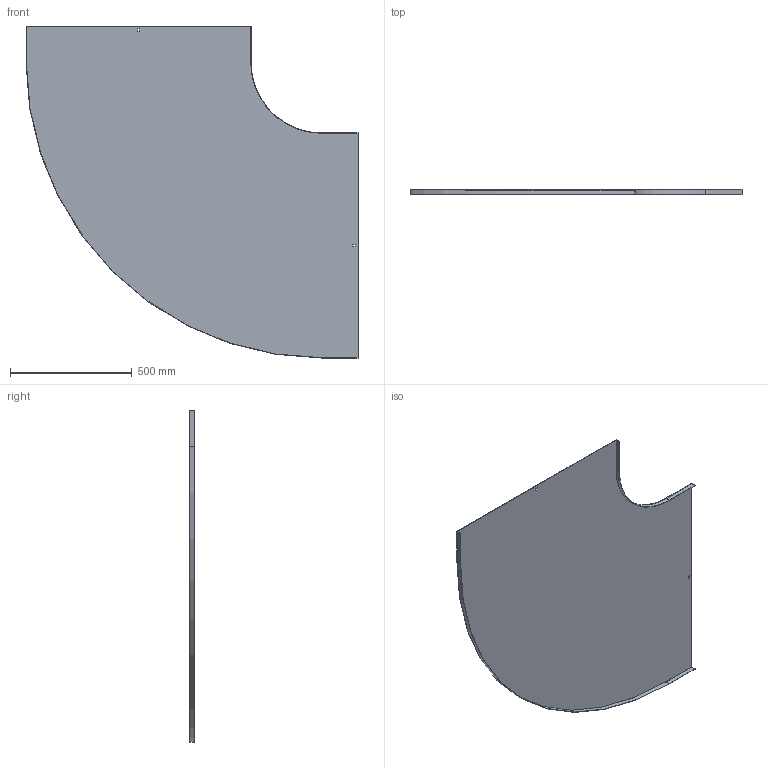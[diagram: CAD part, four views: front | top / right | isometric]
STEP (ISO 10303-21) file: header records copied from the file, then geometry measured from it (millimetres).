
FILE_DESCRIPTION (( 'STEP AP214' ), '1' );
FILE_NAME ('10N3P900.step', '2025-02-21T13:36:57', ( '' ), ( '' ), 'SwSTEP 2.0', 'SolidWorks 2023', '' );
FILE_SCHEMA (( 'AUTOMOTIVE_DESIGN' ));
Length unit declared in the file: millimetre
Products named in the file (1): 10N3P900
Bounding box: 1361.5 x 20 x 1361.5 mm (x, y, z)
Volume: 2128284.5 mm3; surface area: 2845120 mm2
Topology: 1 solids, 1 shells, 26 faces, 72 edges, 48 vertices
Faces by surface type: plane 22, cylinder 4
Entity records: 855 total; most frequent: CARTESIAN_POINT 147, ORIENTED_EDGE 144, DIRECTION 134, EDGE_CURVE 72, LINE 64, VECTOR 64, VERTEX_POINT 48, AXIS2_PLACEMENT_3D 35
